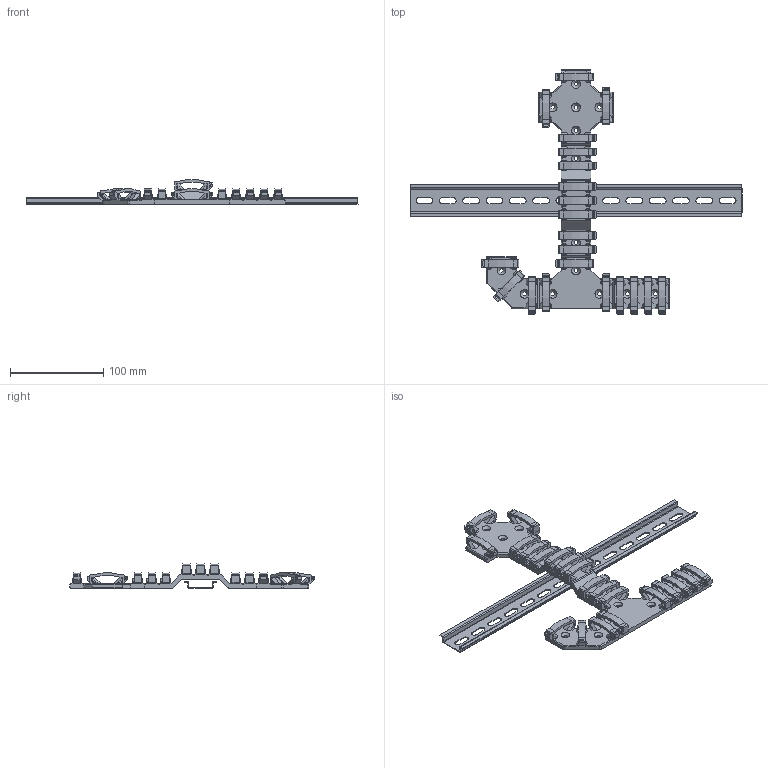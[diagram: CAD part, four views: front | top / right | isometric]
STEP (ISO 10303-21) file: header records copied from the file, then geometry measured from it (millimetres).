
FILE_DESCRIPTION(/* description */ (''),/* implementation_level */ '2;1');
FILE_NAME(/* name */ 'Cable Management Show Countersunk Screw Version.step',/* time_stamp */ '2024-10-01T16:05:50+02:00',/* author */ (''),/* organization */ (''),/* preprocessor_version */ 'ST-DEVELOPER v20',/* originating_system */ 'Autodesk Translation Framework v13.20.0.188',/* authorisation */ '');
FILE_SCHEMA (('AUTOMOTIVE_DESIGN { 1 0 10303 214 3 1 1 }'));
Products named in the file (17): Cable Management Show Countersunk Screw Version; Cable_Guide_Bridge Assembly; Electronics Wire Guide Clip Assembly Bridge; Electronics Wire Guide Clip; Bridge_Cable_Guide; Cable_Guide_Stright Assembly; Stright_Cable_Guide; Roundabout_Assembly; Roundabout_Cable_Guide; Electronics Wire Guide Clip Assembly (1); DIN3 Rail v2 (1); Tee_Cable_Guide_Assembly; Electronics Wire Guide Clip Assembly (2); Tee_Cable_Guide; Cable_Guide_Curve Assembly; Curve_Cable_Guide; Electronics Wire Guide Clip Assembly
Assembly tree (16 placements, depth 4):
  Cable Management Show Countersunk Screw Version
    Cable_Guide_Bridge Assembly
      Electronics Wire Guide Clip Assembly Bridge
        Electronics Wire Guide Clip
      Bridge_Cable_Guide
    Cable_Guide_Stright Assembly
      Stright_Cable_Guide
    Roundabout_Assembly
      Roundabout_Cable_Guide
      Electronics Wire Guide Clip Assembly (1)
    DIN3 Rail v2 (1)
    Tee_Cable_Guide_Assembly
      Electronics Wire Guide Clip Assembly (2)
      Tee_Cable_Guide
    Cable_Guide_Curve Assembly
      Curve_Cable_Guide
      Electronics Wire Guide Clip Assembly
Bounding box: 355.92 x 261.6 x 26.56 mm (x, y, z)
Volume: 109949.6 mm3; surface area: 105065.6 mm2
Topology: 27 solids, 27 shells, 2972 faces, 7785 edges, 4941 vertices
Faces by surface type: plane 2055, cylinder 478, sphere 235, bspline 98, cone 68, torus 38
Full cylindrical faces by diameter (mm): 4.3 x14
Entity records: 92811 total; most frequent: CARTESIAN_POINT 19150, ORIENTED_EDGE 15570, DIRECTION 14583, EDGE_CURVE 7785, LINE 6211, VECTOR 6211, VERTEX_POINT 4941, AXIS2_PLACEMENT_3D 4186
